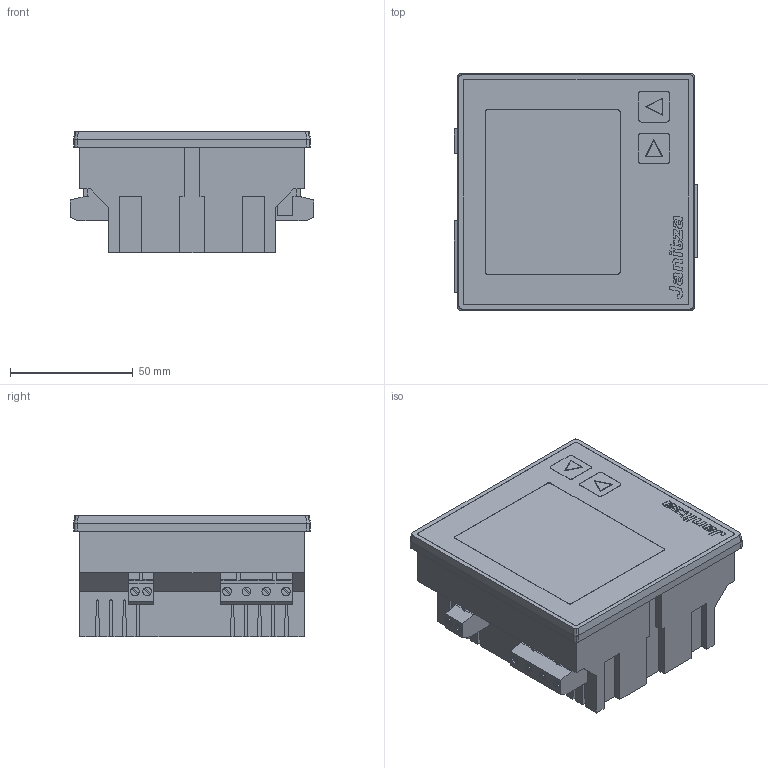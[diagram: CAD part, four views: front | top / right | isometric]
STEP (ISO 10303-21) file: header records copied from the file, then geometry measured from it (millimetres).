
FILE_DESCRIPTION((''),'2;1');
FILE_NAME('C:\Janitza\UMG96RM-3.stp','2013-05-03T14:15:19',('Potschkay'),(''),'Autodesk Inventor 7','Autodesk Inventor 7','');
FILE_SCHEMA(('AUTOMOTIVE_DESIGN { 1 0 10303 214 1 1 1 1 }'));
Length unit declared in the file: millimetre
Products named in the file (9): UMG96RM-3; Blende_UMG96; Taste2; Leiste6; Leiste7; Klemme2; Klemme3; Klemme4
Assembly tree (9 placements, depth 2):
  UMG96RM-3
    UMG96RM-3
    Blende_UMG96
    Taste2  x2
    Leiste6
    Leiste7
    Klemme2
    Klemme3
    Klemme4
Bounding box: 99 x 96.5 x 49.5 mm (x, y, z)
Volume: 372810 mm3; surface area: 57363.1 mm2
Topology: 13 solids, 13 shells, 730 faces, 2012 edges, 1336 vertices
Faces by surface type: plane 487, cylinder 127, bspline 116
Entity records: 23983 total; most frequent: CARTESIAN_POINT 5864, ORIENTED_EDGE 3916, DIRECTION 3364, EDGE_CURVE 1958, VECTOR 1508, LINE 1508, VERTEX_POINT 1300, AXIS2_PLACEMENT_3D 928
